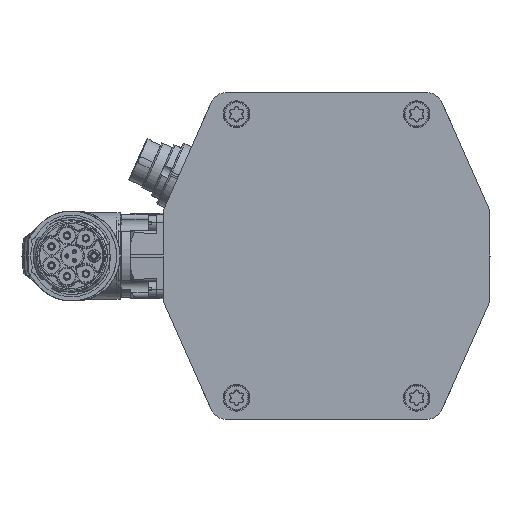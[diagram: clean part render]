
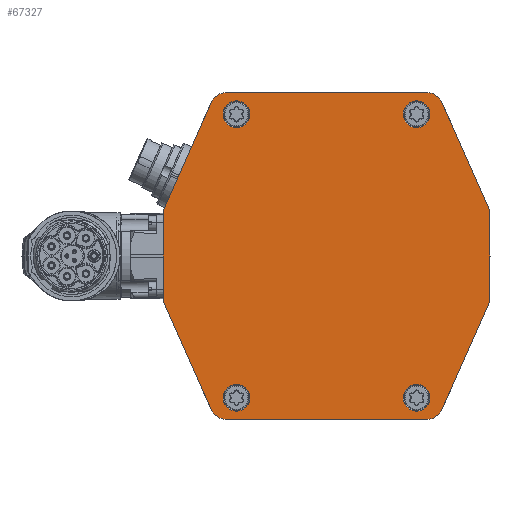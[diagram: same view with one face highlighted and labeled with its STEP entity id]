
A CAD part, left-side view. The second image highlights one B-rep face of the part: STEP entity #67327.
In plain terms, the highlighted planar face has unit normal (-1, 0, 0).
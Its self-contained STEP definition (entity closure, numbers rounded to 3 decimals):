
#4215=CARTESIAN_POINT('',(-245.,-30.,-44.));
#4216=DIRECTION('',(-1.,0.,0.));
#4217=DIRECTION('',(0.,0.,-1.));
#4218=AXIS2_PLACEMENT_3D('',#4215,#4216,#4217);
#4220=DIRECTION('',(0.,-1.,0.));
#4221=VECTOR('',#4220,60.);
#4222=CARTESIAN_POINT('',(-245.,30.,-49.));
#4223=LINE('',#4222,#4221);
#4224=CARTESIAN_POINT('',(-245.,30.,-44.));
#4225=DIRECTION('',(-1.,0.,0.));
#4226=DIRECTION('',(0.,0.914,-0.405));
#4227=AXIS2_PLACEMENT_3D('',#4224,#4225,#4226);
#4229=DIRECTION('',(0.,-0.405,-0.914));
#4230=VECTOR('',#4229,35.228);
#4231=CARTESIAN_POINT('',(-245.,48.829,-13.809));
#4232=LINE('',#4231,#4230);
#4233=CARTESIAN_POINT('',(-245.,47.,-13.));
#4234=DIRECTION('',(-1.,0.,0.));
#4235=DIRECTION('',(0.,1.,0.));
#4236=AXIS2_PLACEMENT_3D('',#4233,#4234,#4235);
#4238=DIRECTION('',(0.,0.,-1.));
#4239=VECTOR('',#4238,26.);
#4240=CARTESIAN_POINT('',(-245.,49.,13.));
#4241=LINE('',#4240,#4239);
#4242=CARTESIAN_POINT('',(-245.,47.,13.));
#4243=DIRECTION('',(-1.,0.,0.));
#4244=DIRECTION('',(0.,0.914,0.405));
#4245=AXIS2_PLACEMENT_3D('',#4242,#4243,#4244);
#4247=DIRECTION('',(0.,0.405,-0.914));
#4248=VECTOR('',#4247,35.228);
#4249=CARTESIAN_POINT('',(-245.,34.572,46.023));
#4250=LINE('',#4249,#4248);
#4251=CARTESIAN_POINT('',(-245.,30.,44.));
#4252=DIRECTION('',(-1.,0.,0.));
#4253=DIRECTION('',(0.,0.,1.));
#4254=AXIS2_PLACEMENT_3D('',#4251,#4252,#4253);
#4256=DIRECTION('',(0.,1.,0.));
#4257=VECTOR('',#4256,60.);
#4258=CARTESIAN_POINT('',(-245.,-30.,49.));
#4259=LINE('',#4258,#4257);
#4260=CARTESIAN_POINT('',(-245.,-30.,44.));
#4261=DIRECTION('',(-1.,0.,0.));
#4262=DIRECTION('',(0.,-0.914,0.405));
#4263=AXIS2_PLACEMENT_3D('',#4260,#4261,#4262);
#4265=DIRECTION('',(0.,0.405,0.914));
#4266=VECTOR('',#4265,35.228);
#4267=CARTESIAN_POINT('',(-245.,-48.829,13.809));
#4268=LINE('',#4267,#4266);
#4269=CARTESIAN_POINT('',(-245.,-47.,13.));
#4270=DIRECTION('',(-1.,0.,0.));
#4271=DIRECTION('',(0.,-1.,0.));
#4272=AXIS2_PLACEMENT_3D('',#4269,#4270,#4271);
#4274=DIRECTION('',(0.,0.,1.));
#4275=VECTOR('',#4274,26.);
#4276=CARTESIAN_POINT('',(-245.,-49.,-13.));
#4277=LINE('',#4276,#4275);
#4278=CARTESIAN_POINT('',(-245.,-47.,-13.));
#4279=DIRECTION('',(-1.,0.,0.));
#4280=DIRECTION('',(0.,-0.914,-0.405));
#4281=AXIS2_PLACEMENT_3D('',#4278,#4279,#4280);
#4283=DIRECTION('',(0.,-0.405,0.914));
#4284=VECTOR('',#4283,35.228);
#4285=CARTESIAN_POINT('',(-245.,-34.572,-46.023));
#4286=LINE('',#4285,#4284);
#4287=CARTESIAN_POINT('',(-245.,27.,-42.5));
#4288=DIRECTION('',(-1.,0.,0.));
#4289=DIRECTION('',(0.,0.,-1.));
#4290=AXIS2_PLACEMENT_3D('',#4287,#4288,#4289);
#4292=CARTESIAN_POINT('',(-245.,27.,-42.5));
#4293=DIRECTION('',(-1.,0.,0.));
#4294=DIRECTION('',(0.,0.,1.));
#4295=AXIS2_PLACEMENT_3D('',#4292,#4293,#4294);
#4297=CARTESIAN_POINT('',(-245.,27.,42.5));
#4298=DIRECTION('',(1.,0.,0.));
#4299=DIRECTION('',(0.,0.,1.));
#4300=AXIS2_PLACEMENT_3D('',#4297,#4298,#4299);
#4302=CARTESIAN_POINT('',(-245.,27.,42.5));
#4303=DIRECTION('',(1.,0.,0.));
#4304=DIRECTION('',(0.,0.,-1.));
#4305=AXIS2_PLACEMENT_3D('',#4302,#4303,#4304);
#4307=CARTESIAN_POINT('',(-245.,-27.,-42.5));
#4308=DIRECTION('',(1.,0.,0.));
#4309=DIRECTION('',(0.,0.,-1.));
#4310=AXIS2_PLACEMENT_3D('',#4307,#4308,#4309);
#4312=CARTESIAN_POINT('',(-245.,-27.,-42.5));
#4313=DIRECTION('',(1.,0.,0.));
#4314=DIRECTION('',(0.,0.,1.));
#4315=AXIS2_PLACEMENT_3D('',#4312,#4313,#4314);
#4317=CARTESIAN_POINT('',(-245.,-27.,42.5));
#4318=DIRECTION('',(-1.,0.,0.));
#4319=DIRECTION('',(0.,0.,1.));
#4320=AXIS2_PLACEMENT_3D('',#4317,#4318,#4319);
#4322=CARTESIAN_POINT('',(-245.,-27.,42.5));
#4323=DIRECTION('',(-1.,0.,0.));
#4324=DIRECTION('',(0.,0.,-1.));
#4325=AXIS2_PLACEMENT_3D('',#4322,#4323,#4324);
#61750=CARTESIAN_POINT('',(-245.,-30.,-49.));
#61751=CARTESIAN_POINT('',(-245.,-34.572,-46.023));
#61752=VERTEX_POINT('',#61750);
#61753=VERTEX_POINT('',#61751);
#61754=CARTESIAN_POINT('',(-245.,-48.829,-13.809));
#61755=VERTEX_POINT('',#61754);
#61756=CARTESIAN_POINT('',(-245.,-49.,-13.));
#61757=VERTEX_POINT('',#61756);
#61758=CARTESIAN_POINT('',(-245.,-49.,13.));
#61759=VERTEX_POINT('',#61758);
#61760=CARTESIAN_POINT('',(-245.,-48.829,13.809));
#61761=VERTEX_POINT('',#61760);
#61762=CARTESIAN_POINT('',(-245.,-34.572,46.023));
#61763=VERTEX_POINT('',#61762);
#61764=CARTESIAN_POINT('',(-245.,-30.,49.));
#61765=VERTEX_POINT('',#61764);
#61766=CARTESIAN_POINT('',(-245.,30.,49.));
#61767=VERTEX_POINT('',#61766);
#61768=CARTESIAN_POINT('',(-245.,34.572,46.023));
#61769=VERTEX_POINT('',#61768);
#61770=CARTESIAN_POINT('',(-245.,48.829,13.809));
#61771=VERTEX_POINT('',#61770);
#61772=CARTESIAN_POINT('',(-245.,49.,13.));
#61773=VERTEX_POINT('',#61772);
#61774=CARTESIAN_POINT('',(-245.,49.,-13.));
#61775=VERTEX_POINT('',#61774);
#61776=CARTESIAN_POINT('',(-245.,48.829,-13.809));
#61777=VERTEX_POINT('',#61776);
#61778=CARTESIAN_POINT('',(-245.,34.572,-46.023));
#61779=VERTEX_POINT('',#61778);
#61780=CARTESIAN_POINT('',(-245.,30.,-49.));
#61781=VERTEX_POINT('',#61780);
#61794=CARTESIAN_POINT('',(-245.,27.,-46.5));
#61795=CARTESIAN_POINT('',(-245.,27.,-38.5));
#61796=VERTEX_POINT('',#61794);
#61797=VERTEX_POINT('',#61795);
#61802=CARTESIAN_POINT('',(-245.,27.,46.5));
#61803=VERTEX_POINT('',#61802);
#61804=CARTESIAN_POINT('',(-245.,27.,38.5));
#61805=VERTEX_POINT('',#61804);
#61810=CARTESIAN_POINT('',(-245.,-27.,-46.5));
#61811=VERTEX_POINT('',#61810);
#61812=CARTESIAN_POINT('',(-245.,-27.,-38.5));
#61813=VERTEX_POINT('',#61812);
#61818=CARTESIAN_POINT('',(-245.,-27.,46.5));
#61819=VERTEX_POINT('',#61818);
#61820=CARTESIAN_POINT('',(-245.,-27.,38.5));
#61821=VERTEX_POINT('',#61820);
#67280=CARTESIAN_POINT('',(-245.,0.,0.));
#67281=DIRECTION('',(-1.,0.,0.));
#67282=DIRECTION('',(0.,1.,0.));
#67283=AXIS2_PLACEMENT_3D('',#67280,#67281,#67282);
#67284=PLANE('',#67283);
#67285=ORIENTED_EDGE('',*,*,#67064,.F.);
#67286=ORIENTED_EDGE('',*,*,#67079,.F.);
#67287=ORIENTED_EDGE('',*,*,#67093,.F.);
#67288=ORIENTED_EDGE('',*,*,#67107,.F.);
#67289=ORIENTED_EDGE('',*,*,#67121,.F.);
#67290=ORIENTED_EDGE('',*,*,#67135,.F.);
#67291=ORIENTED_EDGE('',*,*,#67149,.F.);
#67292=ORIENTED_EDGE('',*,*,#67163,.F.);
#67293=ORIENTED_EDGE('',*,*,#67177,.F.);
#67294=ORIENTED_EDGE('',*,*,#67191,.F.);
#67295=ORIENTED_EDGE('',*,*,#67205,.F.);
#67296=ORIENTED_EDGE('',*,*,#67219,.F.);
#67297=ORIENTED_EDGE('',*,*,#67233,.F.);
#67298=ORIENTED_EDGE('',*,*,#67247,.F.);
#67299=ORIENTED_EDGE('',*,*,#67261,.F.);
#67300=ORIENTED_EDGE('',*,*,#67274,.F.);
#67301=EDGE_LOOP('',(#67285,#67286,#67287,#67288,#67289,#67290,#67291,#67292,
#67293,#67294,#67295,#67296,#67297,#67298,#67299,#67300));
#67302=FACE_OUTER_BOUND('',#67301,.F.);
#67304=ORIENTED_EDGE('',*,*,#67303,.T.);
#67306=ORIENTED_EDGE('',*,*,#67305,.T.);
#67307=EDGE_LOOP('',(#67304,#67306));
#67308=FACE_BOUND('',#67307,.F.);
#67310=ORIENTED_EDGE('',*,*,#67309,.F.);
#67312=ORIENTED_EDGE('',*,*,#67311,.F.);
#67313=EDGE_LOOP('',(#67310,#67312));
#67314=FACE_BOUND('',#67313,.F.);
#67316=ORIENTED_EDGE('',*,*,#67315,.F.);
#67318=ORIENTED_EDGE('',*,*,#67317,.F.);
#67319=EDGE_LOOP('',(#67316,#67318));
#67320=FACE_BOUND('',#67319,.F.);
#67322=ORIENTED_EDGE('',*,*,#67321,.T.);
#67324=ORIENTED_EDGE('',*,*,#67323,.T.);
#67325=EDGE_LOOP('',(#67322,#67324));
#67326=FACE_BOUND('',#67325,.F.);
#67327=ADVANCED_FACE('',(#67302,#67308,#67314,#67320,#67326),#67284,.T.);
#4219=CIRCLE('',#4218,5.);
#4228=CIRCLE('',#4227,5.);
#4237=CIRCLE('',#4236,2.);
#4246=CIRCLE('',#4245,2.);
#4255=CIRCLE('',#4254,5.);
#4264=CIRCLE('',#4263,5.);
#4273=CIRCLE('',#4272,2.);
#4282=CIRCLE('',#4281,2.);
#4291=CIRCLE('',#4290,4.);
#4296=CIRCLE('',#4295,4.);
#4301=CIRCLE('',#4300,4.);
#4306=CIRCLE('',#4305,4.);
#4311=CIRCLE('',#4310,4.);
#4316=CIRCLE('',#4315,4.);
#4321=CIRCLE('',#4320,4.);
#4326=CIRCLE('',#4325,4.);
#67064=EDGE_CURVE('',#61752,#61753,#4219,.T.);
#67079=EDGE_CURVE('',#61781,#61752,#4223,.T.);
#67093=EDGE_CURVE('',#61779,#61781,#4228,.T.);
#67107=EDGE_CURVE('',#61777,#61779,#4232,.T.);
#67121=EDGE_CURVE('',#61775,#61777,#4237,.T.);
#67135=EDGE_CURVE('',#61773,#61775,#4241,.T.);
#67149=EDGE_CURVE('',#61771,#61773,#4246,.T.);
#67163=EDGE_CURVE('',#61769,#61771,#4250,.T.);
#67177=EDGE_CURVE('',#61767,#61769,#4255,.T.);
#67191=EDGE_CURVE('',#61765,#61767,#4259,.T.);
#67205=EDGE_CURVE('',#61763,#61765,#4264,.T.);
#67219=EDGE_CURVE('',#61761,#61763,#4268,.T.);
#67233=EDGE_CURVE('',#61759,#61761,#4273,.T.);
#67247=EDGE_CURVE('',#61757,#61759,#4277,.T.);
#67261=EDGE_CURVE('',#61755,#61757,#4282,.T.);
#67274=EDGE_CURVE('',#61753,#61755,#4286,.T.);
#67303=EDGE_CURVE('',#61796,#61797,#4291,.T.);
#67305=EDGE_CURVE('',#61797,#61796,#4296,.T.);
#67309=EDGE_CURVE('',#61803,#61805,#4301,.T.);
#67311=EDGE_CURVE('',#61805,#61803,#4306,.T.);
#67315=EDGE_CURVE('',#61811,#61813,#4311,.T.);
#67317=EDGE_CURVE('',#61813,#61811,#4316,.T.);
#67321=EDGE_CURVE('',#61819,#61821,#4321,.T.);
#67323=EDGE_CURVE('',#61821,#61819,#4326,.T.);
